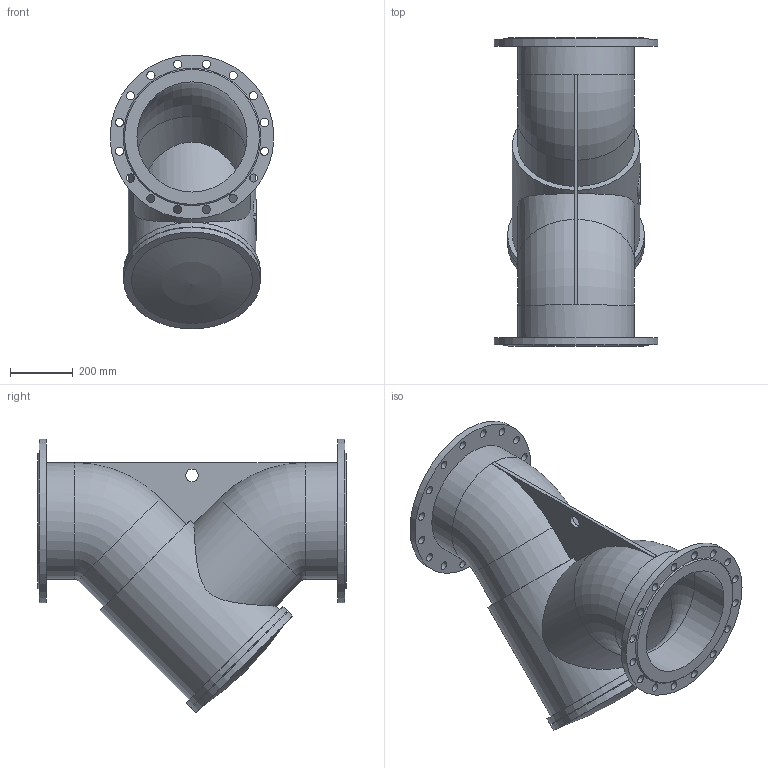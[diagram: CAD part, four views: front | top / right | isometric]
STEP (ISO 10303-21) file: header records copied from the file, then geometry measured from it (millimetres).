
FILE_DESCRIPTION(('STEP AP203'), '1');
FILE_NAME('Ôèëüòð ñåò÷àòûé ôëàíöåâûé 021Y.Z DN350 PN16', '', ('UNSPECIFIED'), ('UNSPECIFIED'), 'ASCON STEP Converter 1.6', 'ASCON Math Kernel', '');
FILE_SCHEMA(('CONFIG_CONTROL_DESIGN'));
Length unit declared in the file: millimetre
Bounding box: 520 x 980 x 870 mm (x, y, z)
Volume: 74143515.7 mm3; surface area: 3350178 mm2
Topology: 1 solids, 1 shells, 91 faces, 219 edges, 142 vertices
Faces by surface type: cylinder 55, plane 29, torus 4, cone 2, sphere 1
Full cylindrical faces by diameter (mm): 26 x32, 40 x1, 350 x4, 370 x2, 405 x1, 423 x1, 435 x2, 520 x2
Entity records: 4383 total; most frequent: CARTESIAN_POINT 1474, DIRECTION 457, ORIENTED_EDGE 336, EDGE_LOOP 219, AXIS2_PLACEMENT_3D 208, EDGE_CURVE 168, VERTEX_POINT 141, FACE_BOUND 123
